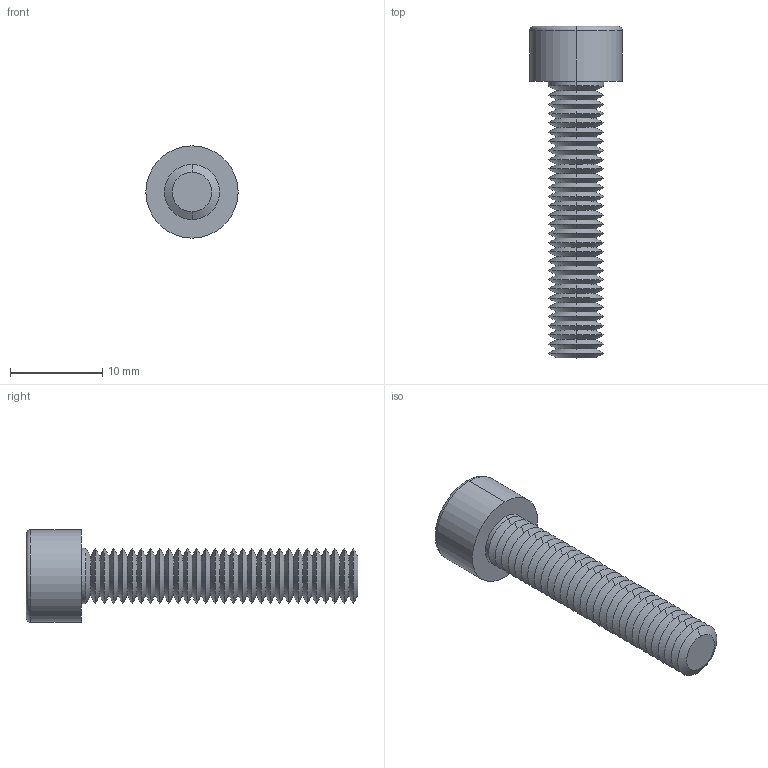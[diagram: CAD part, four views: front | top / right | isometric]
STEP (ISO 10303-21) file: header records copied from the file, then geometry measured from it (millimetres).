
FILE_DESCRIPTION (( 'STEP AP203' ), '1' );
FILE_NAME ('91N.060.0300.step', '2025-05-20T08:53:04', ( '' ), ( '' ), 'SwSTEP 2.0', 'SolidWorks 2019', '' );
FILE_SCHEMA (( 'CONFIG_CONTROL_DESIGN' ));
Length unit declared in the file: millimetre
Products named in the file (1): 91N.060.0300
Bounding box: 10 x 36 x 10 mm (x, y, z)
Volume: 982.3 mm3; surface area: 1374.4 mm2
Topology: 1 solids, 1 shells, 148 faces, 295 edges, 149 vertices
Faces by surface type: cone 127, plane 15, cylinder 4, torus 2
Entity records: 3778 total; most frequent: DIRECTION 727, CARTESIAN_POINT 618, ORIENTED_EDGE 586, EDGE_CURVE 293, AXIS2_PLACEMENT_3D 292, EDGE_LOOP 150, VERTEX_POINT 149, FACE_OUTER_BOUND 148
